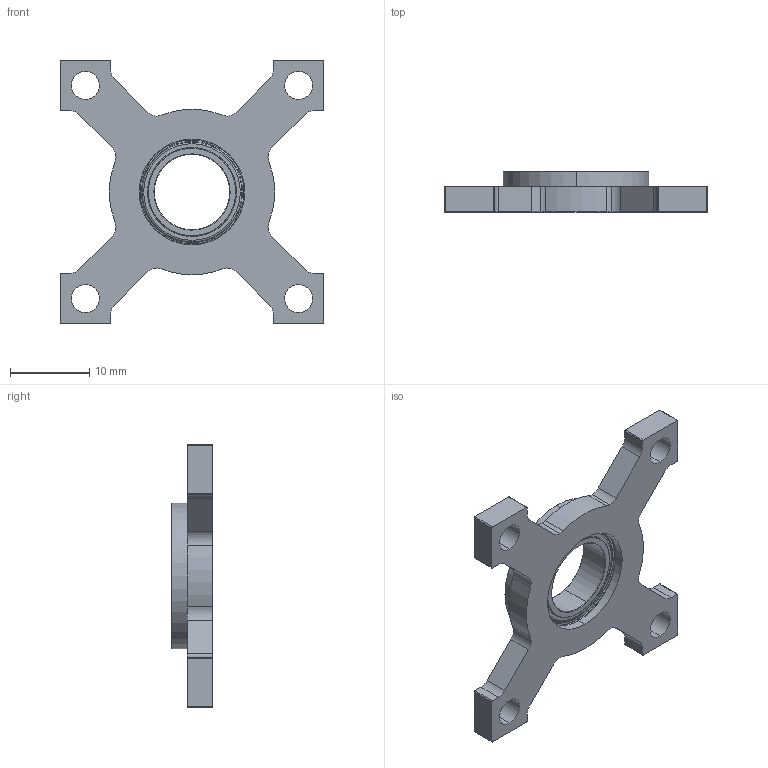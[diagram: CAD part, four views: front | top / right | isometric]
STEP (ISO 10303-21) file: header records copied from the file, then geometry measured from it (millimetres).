
FILE_DESCRIPTION (( 'STEP AP203' ), '1' );
FILE_NAME ('535114 assembly.STEP', '2016-10-10T14:28:41', ( '' ), ( '' ), 'SwSTEP 2.0', 'SolidWorks 2014', '' );
FILE_SCHEMA (( 'CONFIG_CONTROL_DESIGN' ));
Length unit declared in the file: inch
Products named in the file (3): 535024; 535114; 535114 assembly
Assembly tree (2 placements, depth 2):
  535114 assembly
    535114
    535024
Bounding box: 33.27 x 5.09 x 33.27 mm (x, y, z)
Volume: 1985.1 mm3; surface area: 2717.3 mm2
Topology: 4 solids, 4 shells, 153 faces, 367 edges, 234 vertices
Faces by surface type: cylinder 69, plane 44, cone 20, torus 20
Entity records: 4842 total; most frequent: DIRECTION 889, CARTESIAN_POINT 759, ORIENTED_EDGE 734, EDGE_CURVE 367, AXIS2_PLACEMENT_3D 364, VERTEX_POINT 234, CIRCLE 206, EDGE_LOOP 177
